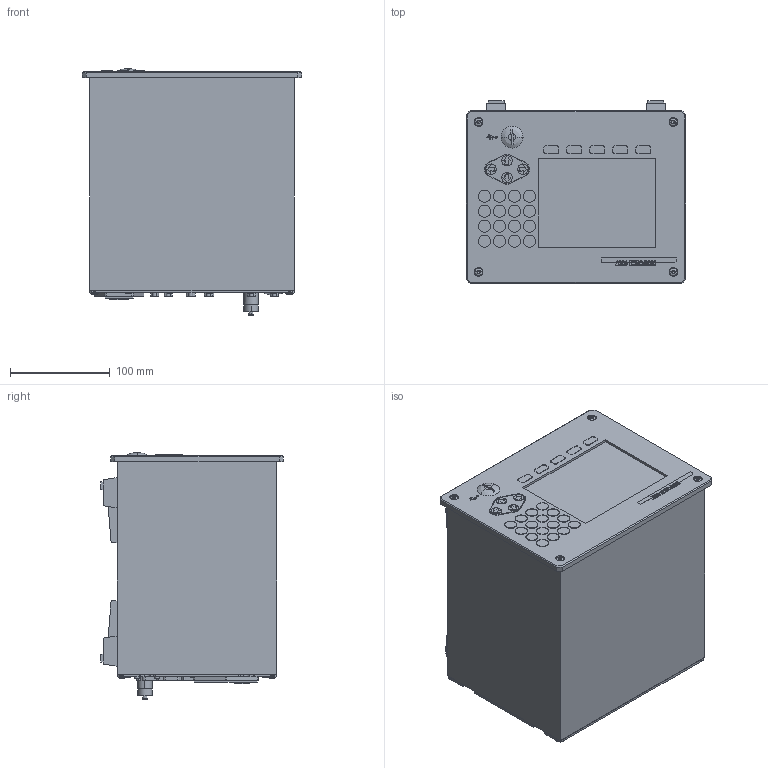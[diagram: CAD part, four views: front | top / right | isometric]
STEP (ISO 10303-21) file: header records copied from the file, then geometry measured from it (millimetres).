
FILE_DESCRIPTION(('STEP AP214'),'1');
FILE_NAME('burster_9307-vx2x4_nqadchq5fs3bnwkdebfple6d.stp','2017-04-21T17:25:03',('TraceParts'),('TraceParts S.A.'),'Spatial InterOp 3D',' ',' ');
FILE_SCHEMA(('automotive_design'));
Length unit declared in the file: millimetre
Products named in the file (1): burster_9307-vx2x4_nqadchq5fs3bnwkdebfple6d
Bounding box: 220 x 183 x 246.31 mm (x, y, z)
Volume: 7328589.5 mm3; surface area: 266570.4 mm2
Topology: 1 solids, 2 shells, 2018 faces, 5049 edges, 3345 vertices
Faces by surface type: plane 1013, cylinder 805, cone 96, bspline 64, sphere 24, torus 16
Entity records: 80506 total; most frequent: CARTESIAN_POINT 15460, DIRECTION 10163, ORIENTED_EDGE 10062, EDGE_CURVE 5031, AXIS2_PLACEMENT_3D 3643, VERTEX_POINT 3345, LINE 2877, VECTOR 2877
